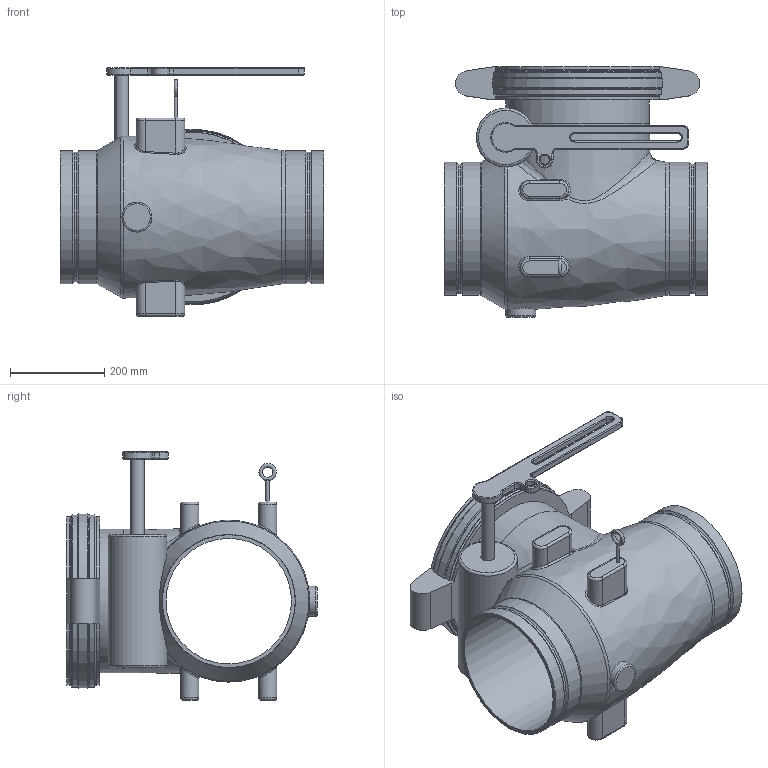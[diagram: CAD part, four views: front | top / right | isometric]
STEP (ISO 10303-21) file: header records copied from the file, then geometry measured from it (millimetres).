
FILE_DESCRIPTION(/* description */ ('VIC AWWA VALVE CHECK SPRING AND LEVER SERIES 317 (DRG)','CAx-IF Rec.Pracs.---Representation and Presentation of Product Manufacturing Information (PMI)---4.0---2014-10-13'),/* implementation_level */ '2;1');
FILE_NAME(/* name */ 'C:\Users\Vjadhav\Desktop\CAD for Inventor\1\317\STEP\Victaulic_AWWA_Valve Check Spring and Lever_Series 317 (DRG)\Victaulic_AWWA_Valve Check Spring and Lever_Series 317 (DRG)_10 (250).stp',/* time_stamp */ '2021-10-01T17:34:53+05:00',/* author */ ('jbrannon'),/* organization */ ('Victaulic'),/* preprocessor_version */ 'ST-DEVELOPER v17.2',/* originating_system */ 'Autodesk Inventor 2019',/* authorisation */ '');
FILE_SCHEMA (('AP242_MANAGED_MODEL_BASED_3D_ENGINEERING_MIM_LF { 1 0 10303 442 1 1 4 }'));
Length unit declared in the file: inch
Products named in the file (1): 317-10.0
Bounding box: 558.8 x 530.86 x 527.3 mm (x, y, z)
Volume: 32698487.3 mm3; surface area: 1543214.5 mm2
Topology: 1 solids, 1 shells, 188 faces, 486 edges, 305 vertices
Faces by surface type: cylinder 65, torus 50, plane 37, bspline 26, cone 10
Full cylindrical faces by diameter (mm): 7.62 x1, 19.177 x1, 28.575 x1, 63.5 x1, 124.968 x1, 266.192 x1, 274.65 x2, 281.94 x4, 304.8 x1
Entity records: 7815 total; most frequent: CARTESIAN_POINT 3019, ORIENTED_EDGE 972, DIRECTION 966, EDGE_CURVE 486, AXIS2_PLACEMENT_3D 414, VERTEX_POINT 305, CIRCLE 238, EDGE_LOOP 201
